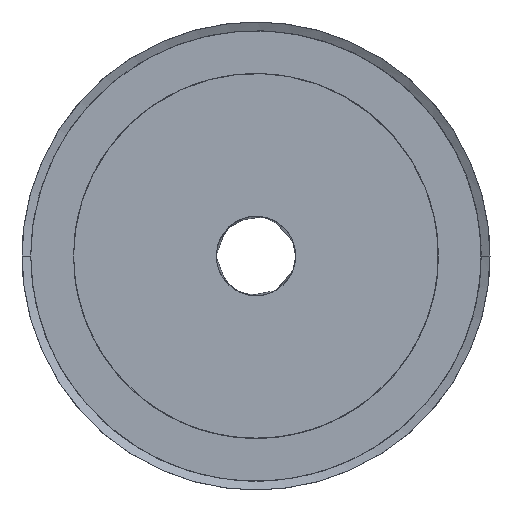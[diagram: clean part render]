
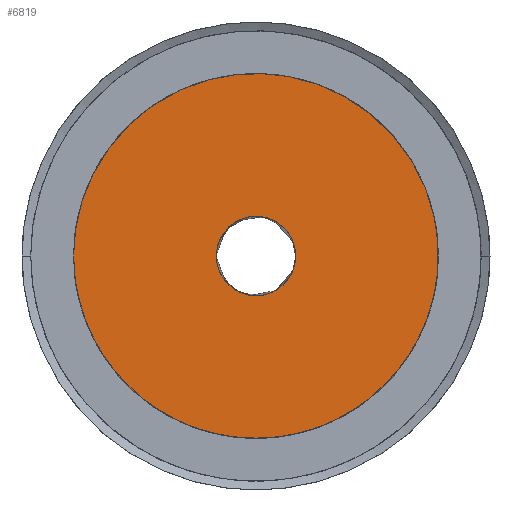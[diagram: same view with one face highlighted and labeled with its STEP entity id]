
A CAD part, left-side view. The second image highlights one B-rep face of the part: STEP entity #6819.
In plain terms, the highlighted planar face has unit normal (-1, 0, 0).
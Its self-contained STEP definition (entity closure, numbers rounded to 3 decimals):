
#20=PLANE('',#26177);
#45=FACE_BOUND('',#7962,.T.);
#6819=ADVANCED_FACE('',(#7387,#45),#20,.T.);
#7387=FACE_OUTER_BOUND('',#7961,.T.);
#7961=EDGE_LOOP('',(#10098));
#7962=EDGE_LOOP('',(#10099));
#10098=ORIENTED_EDGE('',*,*,#19998,.T.);
#10099=ORIENTED_EDGE('',*,*,#19999,.T.);
#11224=(
BOUNDED_CURVE()
B_SPLINE_CURVE(2,(#52664,#52665,#52666,#52667,#52668,#52669,#52670,#52671,
#52672),.UNSPECIFIED.,.T.,.F.)
B_SPLINE_CURVE_WITH_KNOTS((3,2,2,2,3),(0.,1.571,3.142,
4.712,6.283),.UNSPECIFIED.)
CURVE()
GEOMETRIC_REPRESENTATION_ITEM()
RATIONAL_B_SPLINE_CURVE((1.,0.707,1.,0.707,1.,0.707,
1.,0.707,1.))
REPRESENTATION_ITEM('')
);
#11225=(
BOUNDED_CURVE()
B_SPLINE_CURVE(2,(#52673,#52674,#52675,#52676,#52677,#52678,#52679,#52680,
#52681),.UNSPECIFIED.,.T.,.F.)
B_SPLINE_CURVE_WITH_KNOTS((3,2,2,2,3),(0.,1.571,3.142,
4.712,6.283),.UNSPECIFIED.)
CURVE()
GEOMETRIC_REPRESENTATION_ITEM()
RATIONAL_B_SPLINE_CURVE((1.,0.707,1.,0.707,1.,0.707,
1.,0.707,1.))
REPRESENTATION_ITEM('')
);
#11226=(
BOUNDED_CURVE()
B_SPLINE_CURVE(2,(#52682,#52683,#52684,#52685,#52686,#52687,#52688,#52689,
#52690),.UNSPECIFIED.,.T.,.F.)
B_SPLINE_CURVE_WITH_KNOTS((3,2,2,2,3),(3.142,4.712,
6.283,7.854,9.425),.UNSPECIFIED.)
CURVE()
GEOMETRIC_REPRESENTATION_ITEM()
RATIONAL_B_SPLINE_CURVE((1.,0.707,1.,0.707,1.,0.707,
1.,0.707,1.))
REPRESENTATION_ITEM('')
);
#11227=(
BOUNDED_CURVE()
B_SPLINE_CURVE(2,(#52691,#52692,#52693,#52694,#52695,#52696,#52697,#52698,
#52699),.UNSPECIFIED.,.T.,.F.)
B_SPLINE_CURVE_WITH_KNOTS((3,2,2,2,3),(3.142,4.712,
6.283,7.854,9.425),.UNSPECIFIED.)
CURVE()
GEOMETRIC_REPRESENTATION_ITEM()
RATIONAL_B_SPLINE_CURVE((1.,0.707,1.,0.707,1.,0.707,
1.,0.707,1.))
REPRESENTATION_ITEM('')
);
#13407=PCURVE('',#20,#15604);
#13408=PCURVE('',#20,#15605);
#15604=DEFINITIONAL_REPRESENTATION('',(#11225),#54224);
#15605=DEFINITIONAL_REPRESENTATION('',(#11227),#54224);
#17801=SURFACE_CURVE('',#11224,(#13407),.PCURVE_S1.);
#17802=SURFACE_CURVE('',#11226,(#13408),.PCURVE_S1.);
#19998=EDGE_CURVE('',#25477,#25477,#17801,.T.);
#19999=EDGE_CURVE('',#25478,#25478,#17802,.T.);
#25477=VERTEX_POINT('',#52662);
#25478=VERTEX_POINT('',#52663);
#26177=AXIS2_PLACEMENT_3D('',#52661,#26207,$);
#26207=DIRECTION('',(-1.,0.,0.));
#52661=CARTESIAN_POINT('',(0.,-23.,23.));
#52662=CARTESIAN_POINT('',(0.,23.,0.));
#52663=CARTESIAN_POINT('',(0.,-5.,0.));
#52664=CARTESIAN_POINT('',(0.,23.,0.));
#52665=CARTESIAN_POINT('',(0.,23.,-23.));
#52666=CARTESIAN_POINT('',(0.,0.,-23.));
#52667=CARTESIAN_POINT('',(0.,-23.,-23.));
#52668=CARTESIAN_POINT('',(0.,-23.,0.));
#52669=CARTESIAN_POINT('',(0.,-23.,23.));
#52670=CARTESIAN_POINT('',(0.,0.,23.));
#52671=CARTESIAN_POINT('',(0.,23.,23.));
#52672=CARTESIAN_POINT('',(0.,23.,0.));
#52673=CARTESIAN_POINT('',(1.,0.5));
#52674=CARTESIAN_POINT('',(1.,1.));
#52675=CARTESIAN_POINT('',(0.5,1.));
#52676=CARTESIAN_POINT('',(0.,1.));
#52677=CARTESIAN_POINT('',(0.,0.5));
#52678=CARTESIAN_POINT('',(0.,0.));
#52679=CARTESIAN_POINT('',(0.5,0.));
#52680=CARTESIAN_POINT('',(1.,0.));
#52681=CARTESIAN_POINT('',(1.,0.5));
#52682=CARTESIAN_POINT('',(0.,-5.,0.));
#52683=CARTESIAN_POINT('',(0.,-5.,-5.));
#52684=CARTESIAN_POINT('',(0.,0.,-5.));
#52685=CARTESIAN_POINT('',(0.,5.,-5.));
#52686=CARTESIAN_POINT('',(0.,5.,0.));
#52687=CARTESIAN_POINT('',(0.,5.,5.));
#52688=CARTESIAN_POINT('',(0.,0.,5.));
#52689=CARTESIAN_POINT('',(0.,-5.,5.));
#52690=CARTESIAN_POINT('',(0.,-5.,0.));
#52691=CARTESIAN_POINT('',(0.391,0.5));
#52692=CARTESIAN_POINT('',(0.391,0.609));
#52693=CARTESIAN_POINT('',(0.5,0.609));
#52694=CARTESIAN_POINT('',(0.609,0.609));
#52695=CARTESIAN_POINT('',(0.609,0.5));
#52696=CARTESIAN_POINT('',(0.609,0.391));
#52697=CARTESIAN_POINT('',(0.5,0.391));
#52698=CARTESIAN_POINT('',(0.391,0.391));
#52699=CARTESIAN_POINT('',(0.391,0.5));
#54224=(
GEOMETRIC_REPRESENTATION_CONTEXT(2)
PARAMETRIC_REPRESENTATION_CONTEXT()
REPRESENTATION_CONTEXT('pspace','')
);
